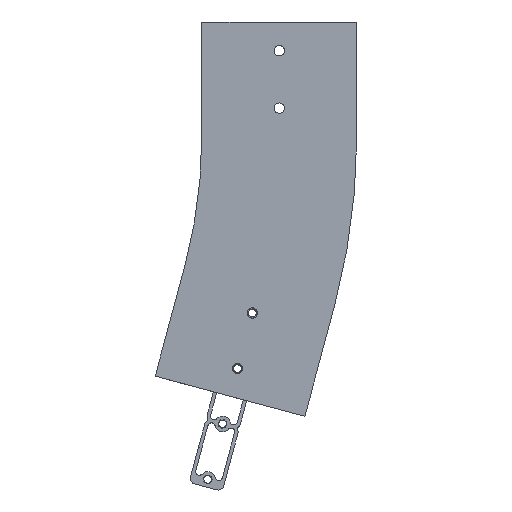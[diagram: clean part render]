
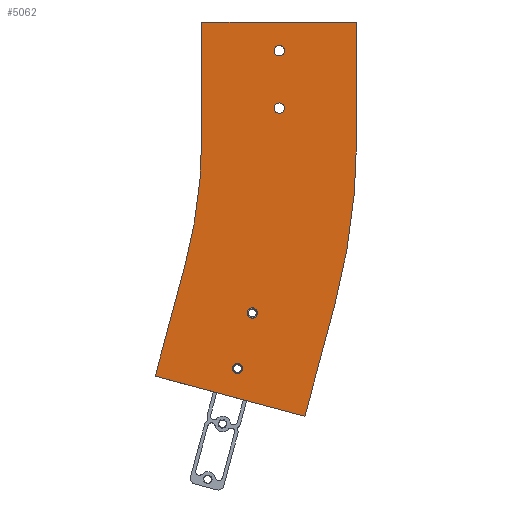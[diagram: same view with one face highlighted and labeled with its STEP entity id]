
A CAD part, left-side view. The second image highlights one B-rep face of the part: STEP entity #5062.
In plain terms, the highlighted planar face has unit normal (-1, 0, 0).
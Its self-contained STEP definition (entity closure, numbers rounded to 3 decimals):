
#204 = VECTOR ( 'NONE', #4500, 1000. ) ;
#205 = LINE ( 'NONE', #4501, #204 ) ;
#437 = VECTOR ( 'NONE', #4870, 1000. ) ;
#438 = LINE ( 'NONE', #4872, #437 ) ;
#443 = CIRCLE ( 'NONE', #3960, 567.5 ) ;
#452 = VECTOR ( 'NONE', #4894, 1000. ) ;
#454 = LINE ( 'NONE', #4895, #452 ) ;
#465 = VECTOR ( 'NONE', #4345, 1000. ) ;
#466 = LINE ( 'NONE', #4350, #465 ) ;
#471 = CIRCLE ( 'NONE', #3958, 432.5 ) ;
#522 = CIRCLE ( 'NONE', #3953, 4.5 ) ;
#534 = CIRCLE ( 'NONE', #3950, 4.5 ) ;
#546 = CIRCLE ( 'NONE', #3948, 4.5 ) ;
#582 = CIRCLE ( 'NONE', #3942, 4.5 ) ;
#1331 = DIRECTION ( 'NONE',  ( 0., 0., 1. ) ) ;
#1332 = CARTESIAN_POINT ( 'NONE',  ( -59., 67.5, -100. ) ) ;
#1336 = DIRECTION ( 'NONE',  ( 0., 0., 1. ) ) ;
#1337 = DIRECTION ( 'NONE',  ( -1., 0., 0. ) ) ;
#1339 = CARTESIAN_POINT ( 'NONE',  ( -59., 36.449, -301.854 ) ) ;
#1343 = DIRECTION ( 'NONE',  ( 0., 0., 1. ) ) ;
#1344 = DIRECTION ( 'NONE',  ( -1., 0., 0. ) ) ;
#1345 = CARTESIAN_POINT ( 'NONE',  ( -59., 23.508, -253.558 ) ) ;
#1350 = DIRECTION ( 'NONE',  ( 0., 0., 1. ) ) ;
#1351 = DIRECTION ( 'NONE',  ( -1., 0., 0. ) ) ;
#1352 = CARTESIAN_POINT ( 'NONE',  ( -59., 0., -25. ) ) ;
#1353 = DIRECTION ( 'NONE',  ( 0., 0., 1. ) ) ;
#1354 = DIRECTION ( 'NONE',  ( -1., 0., 0. ) ) ;
#1355 = CARTESIAN_POINT ( 'NONE',  ( -59., 0., -75. ) ) ;
#1356 = DIRECTION ( 'NONE',  ( 0., -1., 0. ) ) ;
#1357 = CARTESIAN_POINT ( 'NONE',  ( -59., -67.5, 0. ) ) ;
#2343 = EDGE_CURVE ( 'NONE', #8065, #8083, #582, .T. ) ;
#2360 = EDGE_CURVE ( 'NONE', #8075, #8064, #546, .T. ) ;
#2366 = EDGE_CURVE ( 'NONE', #8032, #7881, #534, .T. ) ;
#2371 = EDGE_CURVE ( 'NONE', #7735, #7736, #522, .T. ) ;
#2391 = EDGE_CURVE ( 'NONE', #7713, #7739, #471, .T. ) ;
#2394 = EDGE_CURVE ( 'NONE', #7739, #7777, #466, .T. ) ;
#2401 = EDGE_CURVE ( 'NONE', #7814, #7828, #454, .T. ) ;
#2405 = EDGE_CURVE ( 'NONE', #7835, #7814, #443, .T. ) ;
#2408 = EDGE_CURVE ( 'NONE', #7835, #7844, #438, .T. ) ;
#2524 = EDGE_CURVE ( 'NONE', #7777, #7828, #205, .T. ) ;
#2986 = DIRECTION ( 'NONE',  ( 0., 0., 1. ) ) ;
#2987 = DIRECTION ( 'NONE',  ( -1., 0., 0. ) ) ;
#2988 = CARTESIAN_POINT ( 'NONE',  ( -59., -67.5, -100. ) ) ;
#2989 = PLANE ( 'NONE',  #4232 ) ;
#3608 = FACE_OUTER_BOUND ( 'NONE', #6139, .T. ) ;
#3633 = FACE_BOUND ( 'NONE', #6142, .T. ) ;
#3646 = FACE_BOUND ( 'NONE', #6141, .T. ) ;
#3670 = FACE_BOUND ( 'NONE', #6144, .T. ) ;
#3674 = FACE_BOUND ( 'NONE', #6143, .T. ) ;
#3874 = EDGE_CURVE ( 'NONE', #8058, #7844, #6514, .T. ) ;
#3875 = EDGE_CURVE ( 'NONE', #8083, #8065, #6511, .T. ) ;
#3876 = EDGE_CURVE ( 'NONE', #8064, #8075, #6510, .T. ) ;
#3878 = EDGE_CURVE ( 'NONE', #7881, #8032, #6508, .T. ) ;
#3880 = EDGE_CURVE ( 'NONE', #7736, #7735, #6506, .T. ) ;
#3882 = EDGE_CURVE ( 'NONE', #7713, #8058, #6505, .T. ) ;
#3942 = AXIS2_PLACEMENT_3D ( 'NONE', #4779, #4778, #4776 ) ;
#3948 = AXIS2_PLACEMENT_3D ( 'NONE', #4641, #4639, #4636 ) ;
#3950 = AXIS2_PLACEMENT_3D ( 'NONE', #4594, #4592, #4590 ) ;
#3953 = AXIS2_PLACEMENT_3D ( 'NONE', #4555, #4553, #4551 ) ;
#3958 = AXIS2_PLACEMENT_3D ( 'NONE', #4384, #4380, #4377 ) ;
#3960 = AXIS2_PLACEMENT_3D ( 'NONE', #4884, #4882, #4881 ) ;
#4066 = AXIS2_PLACEMENT_3D ( 'NONE', #1355, #1354, #1353 ) ;
#4067 = AXIS2_PLACEMENT_3D ( 'NONE', #1352, #1351, #1350 ) ;
#4069 = AXIS2_PLACEMENT_3D ( 'NONE', #1345, #1344, #1343 ) ;
#4071 = AXIS2_PLACEMENT_3D ( 'NONE', #1339, #1337, #1336 ) ;
#4232 = AXIS2_PLACEMENT_3D ( 'NONE', #2988, #2987, #2986 ) ;
#4345 = DIRECTION ( 'NONE',  ( 0., 0.259, -0.966 ) ) ;
#4350 = CARTESIAN_POINT ( 'NONE',  ( -59., 82.237, -211.939 ) ) ;
#4377 = DIRECTION ( 'NONE',  ( 0., 0., -1. ) ) ;
#4380 = DIRECTION ( 'NONE',  ( 1., 0., 0. ) ) ;
#4384 = CARTESIAN_POINT ( 'NONE',  ( -59., 500., -100. ) ) ;
#4500 = DIRECTION ( 'NONE',  ( 0., -0.966, -0.259 ) ) ;
#4501 = CARTESIAN_POINT ( 'NONE',  ( -59., -22.281, -343.472 ) ) ;
#4551 = DIRECTION ( 'NONE',  ( 0., 0., 1. ) ) ;
#4553 = DIRECTION ( 'NONE',  ( -1., 0., 0. ) ) ;
#4555 = CARTESIAN_POINT ( 'NONE',  ( -59., 36.449, -301.854 ) ) ;
#4590 = DIRECTION ( 'NONE',  ( 0., 0., 1. ) ) ;
#4592 = DIRECTION ( 'NONE',  ( -1., 0., 0. ) ) ;
#4594 = CARTESIAN_POINT ( 'NONE',  ( -59., 23.508, -253.558 ) ) ;
#4636 = DIRECTION ( 'NONE',  ( 0., 0., 1. ) ) ;
#4639 = DIRECTION ( 'NONE',  ( -1., 0., 0. ) ) ;
#4641 = CARTESIAN_POINT ( 'NONE',  ( -59., 0., -25. ) ) ;
#4776 = DIRECTION ( 'NONE',  ( 0., 0., 1. ) ) ;
#4778 = DIRECTION ( 'NONE',  ( -1., 0., 0. ) ) ;
#4779 = CARTESIAN_POINT ( 'NONE',  ( -59., 0., -75. ) ) ;
#4870 = DIRECTION ( 'NONE',  ( 0., 0., 1. ) ) ;
#4872 = CARTESIAN_POINT ( 'NONE',  ( -59., -67.5, -100. ) ) ;
#4881 = DIRECTION ( 'NONE',  ( 0., 0., -1. ) ) ;
#4882 = DIRECTION ( 'NONE',  ( 1., 0., 0. ) ) ;
#4884 = CARTESIAN_POINT ( 'NONE',  ( -59., 500., -100. ) ) ;
#4894 = DIRECTION ( 'NONE',  ( 0., 0.259, -0.966 ) ) ;
#4895 = CARTESIAN_POINT ( 'NONE',  ( -59., -48.163, -246.88 ) ) ;
#5062 = ADVANCED_FACE ( 'NONE', ( #3674, #3670, #3646, #3633, #3608 ), #2989, .T. ) ;
#5688 = ORIENTED_EDGE ( 'NONE', *, *, #3875, .F. ) ;
#5689 = ORIENTED_EDGE ( 'NONE', *, *, #2343, .F. ) ;
#5690 = ORIENTED_EDGE ( 'NONE', *, *, #3876, .F. ) ;
#5691 = ORIENTED_EDGE ( 'NONE', *, *, #2360, .F. ) ;
#5692 = ORIENTED_EDGE ( 'NONE', *, *, #3878, .F. ) ;
#5693 = ORIENTED_EDGE ( 'NONE', *, *, #2366, .F. ) ;
#5694 = ORIENTED_EDGE ( 'NONE', *, *, #3880, .F. ) ;
#5695 = ORIENTED_EDGE ( 'NONE', *, *, #2371, .F. ) ;
#5696 = ORIENTED_EDGE ( 'NONE', *, *, #3874, .F. ) ;
#5697 = ORIENTED_EDGE ( 'NONE', *, *, #3882, .F. ) ;
#5699 = ORIENTED_EDGE ( 'NONE', *, *, #2391, .T. ) ;
#5700 = ORIENTED_EDGE ( 'NONE', *, *, #2394, .T. ) ;
#5701 = ORIENTED_EDGE ( 'NONE', *, *, #2524, .T. ) ;
#5703 = ORIENTED_EDGE ( 'NONE', *, *, #2401, .F. ) ;
#5704 = ORIENTED_EDGE ( 'NONE', *, *, #2405, .F. ) ;
#5705 = ORIENTED_EDGE ( 'NONE', *, *, #2408, .T. ) ;
#6139 = EDGE_LOOP ( 'NONE', ( #5696, #5697, #5699, #5700, #5701, #5703, #5704, #5705 ) ) ;
#6141 = EDGE_LOOP ( 'NONE', ( #5692, #5693 ) ) ;
#6142 = EDGE_LOOP ( 'NONE', ( #5694, #5695 ) ) ;
#6143 = EDGE_LOOP ( 'NONE', ( #5688, #5689 ) ) ;
#6144 = EDGE_LOOP ( 'NONE', ( #5690, #5691 ) ) ;
#6503 = VECTOR ( 'NONE', #1331, 1000. ) ;
#6505 = LINE ( 'NONE', #1332, #6503 ) ;
#6506 = CIRCLE ( 'NONE', #4071, 4.5 ) ;
#6508 = CIRCLE ( 'NONE', #4069, 4.5 ) ;
#6510 = CIRCLE ( 'NONE', #4067, 4.5 ) ;
#6511 = CIRCLE ( 'NONE', #4066, 4.5 ) ;
#6512 = VECTOR ( 'NONE', #1356, 1000. ) ;
#6514 = LINE ( 'NONE', #1357, #6512 ) ;
#6800 = CARTESIAN_POINT ( 'NONE',  ( -59., 67.5, -100. ) ) ;
#6822 = CARTESIAN_POINT ( 'NONE',  ( -59., 36.449, -306.354 ) ) ;
#6823 = CARTESIAN_POINT ( 'NONE',  ( -59., 36.449, -297.354 ) ) ;
#6826 = CARTESIAN_POINT ( 'NONE',  ( -59., 82.237, -211.939 ) ) ;
#6864 = CARTESIAN_POINT ( 'NONE',  ( -59., 108.119, -308.532 ) ) ;
#6901 = CARTESIAN_POINT ( 'NONE',  ( -59., -48.163, -246.88 ) ) ;
#6915 = CARTESIAN_POINT ( 'NONE',  ( -59., -22.281, -343.472 ) ) ;
#6922 = CARTESIAN_POINT ( 'NONE',  ( -59., -67.5, -100. ) ) ;
#6931 = CARTESIAN_POINT ( 'NONE',  ( -59., -67.5, 0. ) ) ;
#6968 = CARTESIAN_POINT ( 'NONE',  ( -59., 23.508, -249.058 ) ) ;
#7119 = CARTESIAN_POINT ( 'NONE',  ( -59., 23.508, -258.058 ) ) ;
#7145 = CARTESIAN_POINT ( 'NONE',  ( -59., 67.5, 0. ) ) ;
#7151 = CARTESIAN_POINT ( 'NONE',  ( -59., 0., -20.5 ) ) ;
#7152 = CARTESIAN_POINT ( 'NONE',  ( -59., 0., -79.5 ) ) ;
#7162 = CARTESIAN_POINT ( 'NONE',  ( -59., 0., -29.5 ) ) ;
#7170 = CARTESIAN_POINT ( 'NONE',  ( -59., 0., -70.5 ) ) ;
#7713 = VERTEX_POINT ( 'NONE', #6800 ) ;
#7735 = VERTEX_POINT ( 'NONE', #6822 ) ;
#7736 = VERTEX_POINT ( 'NONE', #6823 ) ;
#7739 = VERTEX_POINT ( 'NONE', #6826 ) ;
#7777 = VERTEX_POINT ( 'NONE', #6864 ) ;
#7814 = VERTEX_POINT ( 'NONE', #6901 ) ;
#7828 = VERTEX_POINT ( 'NONE', #6915 ) ;
#7835 = VERTEX_POINT ( 'NONE', #6922 ) ;
#7844 = VERTEX_POINT ( 'NONE', #6931 ) ;
#7881 = VERTEX_POINT ( 'NONE', #6968 ) ;
#8032 = VERTEX_POINT ( 'NONE', #7119 ) ;
#8058 = VERTEX_POINT ( 'NONE', #7145 ) ;
#8064 = VERTEX_POINT ( 'NONE', #7151 ) ;
#8065 = VERTEX_POINT ( 'NONE', #7152 ) ;
#8075 = VERTEX_POINT ( 'NONE', #7162 ) ;
#8083 = VERTEX_POINT ( 'NONE', #7170 ) ;
